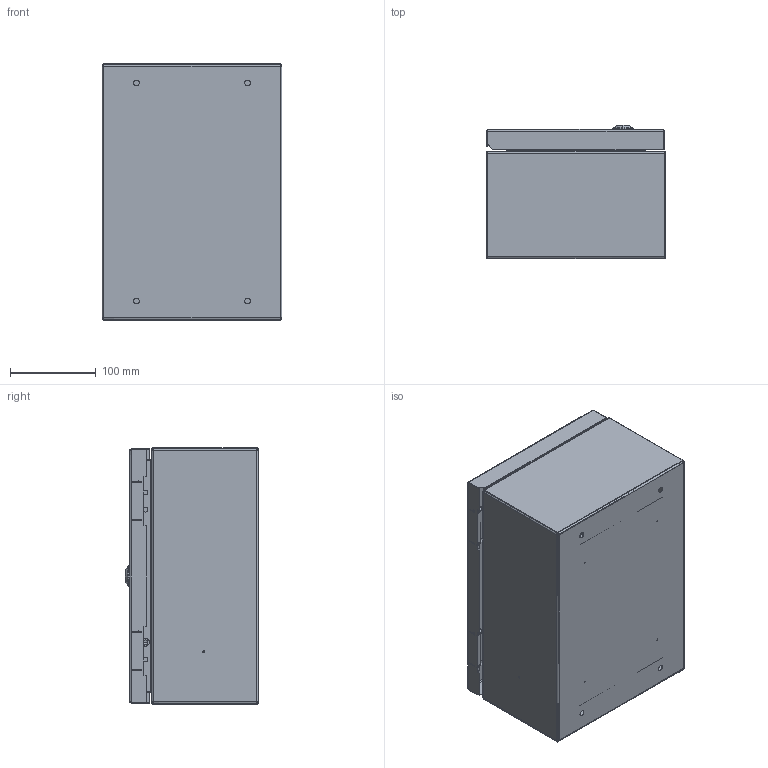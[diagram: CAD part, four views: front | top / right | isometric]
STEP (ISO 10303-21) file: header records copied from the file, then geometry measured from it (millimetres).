
FILE_DESCRIPTION (( 'STEP AP214' ), '1' );
FILE_NAME ('ÙÌÏ-321-300õ210õ150-IP31-ÓÕË3-ÊÝÀÇ.STEP', '2023-01-24T12:08:33', ( '' ), ( '' ), 'SwSTEP 2.0', 'SolidWorks 2018', '' );
FILE_SCHEMA (( 'AUTOMOTIVE_DESIGN' ));
Length unit declared in the file: millimetre
Products named in the file (1): ÙÌÏ-321-300õ210õ150-IP31-ÓÕË3-ÊÝÀÇ
Bounding box: 210 x 155.7 x 300 mm (x, y, z)
Surface area: 639308 mm2 (no closed solid volume)
Topology: 0 solids, 29 shells, 219 faces, 722 edges, 515 vertices
Faces by surface type: plane 117, cylinder 72, bspline 18, torus 6, cone 4, sphere 2
Entity records: 11453 total; most frequent: CARTESIAN_POINT 2869, DIRECTION 1257, ORIENTED_EDGE 1084, EDGE_CURVE 722, VERTEX_POINT 515, LINE 447, VECTOR 447, AXIS2_PLACEMENT_3D 405
